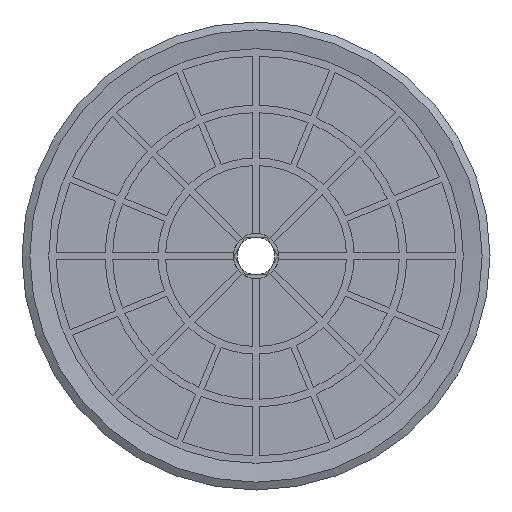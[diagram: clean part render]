
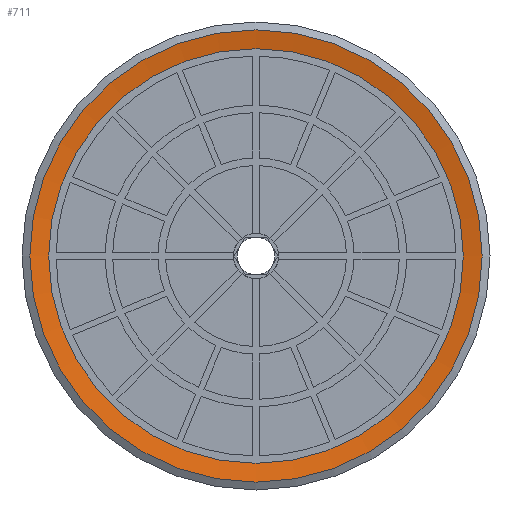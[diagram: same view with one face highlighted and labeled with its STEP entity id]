
A CAD part, front view. The second image highlights one B-rep face of the part: STEP entity #711.
In plain terms, the highlighted conical face has half-angle 80 degrees and reference radius 15 mm.
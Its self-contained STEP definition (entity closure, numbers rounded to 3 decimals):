
#711=ADVANCED_FACE('',(#1302,#1303),#1304,.F.);
#1302=FACE_BOUND('',#2106,.T.);
#1303=FACE_OUTER_BOUND('',#2107,.T.);
#1304=CONICAL_SURFACE('',#2108,15.0,1.396);
#2106=EDGE_LOOP('',(#3869));
#2107=EDGE_LOOP('',(#3870));
#2108=AXIS2_PLACEMENT_3D('',#3871,#3872,#3873);
#3869=ORIENTED_EDGE('',*,*,#5598,.T.);
#3870=ORIENTED_EDGE('',*,*,#5599,.F.);
#3871=CARTESIAN_POINT('',(0.0,0.,0.));
#3872=DIRECTION('',(0.0,0.,-1.0));
#3873=DIRECTION('',(0.0,1.0,0.));
#5598=EDGE_CURVE('',#6754,#6754,#6755,.T.);
#5599=EDGE_CURVE('',#6756,#6756,#6757,.T.);
#6754=VERTEX_POINT('',#8712);
#6755=CIRCLE('',#8713,13.75);
#6756=VERTEX_POINT('',#8714);
#6757=CIRCLE('',#8715,15.0);
#8712=CARTESIAN_POINT('',(0.0,-13.75,0.22));
#8713=AXIS2_PLACEMENT_3D('',#10078,#10079,#10080);
#8714=CARTESIAN_POINT('',(0.0,-15.0,0.));
#8715=AXIS2_PLACEMENT_3D('',#10081,#10082,#10083);
#10078=CARTESIAN_POINT('',(0.0,0.,0.22));
#10079=DIRECTION('',(0.0,0.,1.0));
#10080=DIRECTION('',(0.0,-1.0,0.));
#10081=CARTESIAN_POINT('',(0.0,0.,0.));
#10082=DIRECTION('',(0.0,0.,1.0));
#10083=DIRECTION('',(0.0,-1.0,0.));
